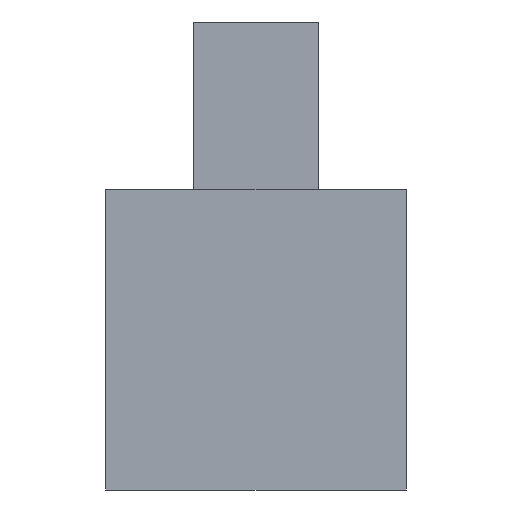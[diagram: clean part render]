
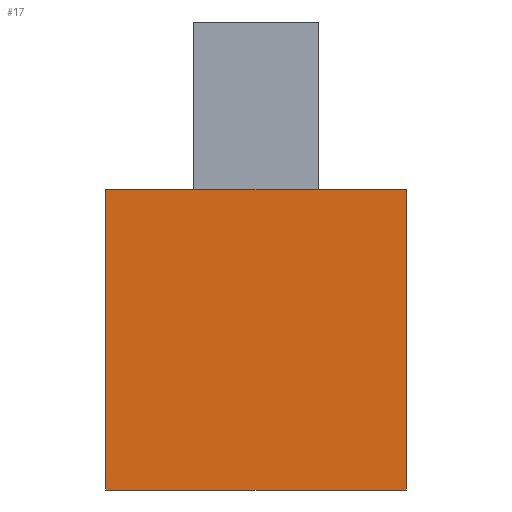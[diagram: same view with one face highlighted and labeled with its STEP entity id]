
A CAD part, left-side view. The second image highlights one B-rep face of the part: STEP entity #17.
In plain terms, the highlighted planar face has unit normal (-1, 0, 0).
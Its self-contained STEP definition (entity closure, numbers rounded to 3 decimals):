
#17 = ADVANCED_FACE('',(#18),#32,.F.);
#18 = FACE_BOUND('',#19,.F.);
#19 = EDGE_LOOP('',(#20,#55,#83,#111));
#20 = ORIENTED_EDGE('',*,*,#21,.F.);
#21 = EDGE_CURVE('',#22,#24,#26,.T.);
#22 = VERTEX_POINT('',#23);
#23 = CARTESIAN_POINT('',(-4.5,-1.8,0.));
#24 = VERTEX_POINT('',#25);
#25 = CARTESIAN_POINT('',(-4.5,-1.8,3.6));
#26 = SURFACE_CURVE('',#27,(#31,#43),.PCURVE_S1.);
#27 = LINE('',#28,#29);
#28 = CARTESIAN_POINT('',(-4.5,-1.8,0.));
#29 = VECTOR('',#30,1.);
#30 = DIRECTION('',(0.,0.,1.));
#31 = PCURVE('',#32,#37);
#32 = PLANE('',#33);
#33 = AXIS2_PLACEMENT_3D('',#34,#35,#36);
#34 = CARTESIAN_POINT('',(-4.5,-1.8,0.));
#35 = DIRECTION('',(1.,0.,-0.));
#36 = DIRECTION('',(0.,0.,1.));
#37 = DEFINITIONAL_REPRESENTATION('',(#38),#42);
#38 = LINE('',#39,#40);
#39 = CARTESIAN_POINT('',(0.,0.));
#40 = VECTOR('',#41,1.);
#41 = DIRECTION('',(1.,0.));
#42 = ( GEOMETRIC_REPRESENTATION_CONTEXT(2) 
PARAMETRIC_REPRESENTATION_CONTEXT() REPRESENTATION_CONTEXT('2D SPACE',''
  ) );
#43 = PCURVE('',#44,#49);
#44 = PLANE('',#45);
#45 = AXIS2_PLACEMENT_3D('',#46,#47,#48);
#46 = CARTESIAN_POINT('',(-4.5,-1.8,0.));
#47 = DIRECTION('',(-0.,1.,0.));
#48 = DIRECTION('',(0.,0.,1.));
#49 = DEFINITIONAL_REPRESENTATION('',(#50),#54);
#50 = LINE('',#51,#52);
#51 = CARTESIAN_POINT('',(0.,0.));
#52 = VECTOR('',#53,1.);
#53 = DIRECTION('',(1.,0.));
#54 = ( GEOMETRIC_REPRESENTATION_CONTEXT(2) 
PARAMETRIC_REPRESENTATION_CONTEXT() REPRESENTATION_CONTEXT('2D SPACE',''
  ) );
#55 = ORIENTED_EDGE('',*,*,#56,.T.);
#56 = EDGE_CURVE('',#22,#57,#59,.T.);
#57 = VERTEX_POINT('',#58);
#58 = CARTESIAN_POINT('',(-4.5,1.8,0.));
#59 = SURFACE_CURVE('',#60,(#64,#71),.PCURVE_S1.);
#60 = LINE('',#61,#62);
#61 = CARTESIAN_POINT('',(-4.5,-1.8,0.));
#62 = VECTOR('',#63,1.);
#63 = DIRECTION('',(-0.,1.,0.));
#64 = PCURVE('',#32,#65);
#65 = DEFINITIONAL_REPRESENTATION('',(#66),#70);
#66 = LINE('',#67,#68);
#67 = CARTESIAN_POINT('',(0.,0.));
#68 = VECTOR('',#69,1.);
#69 = DIRECTION('',(0.,-1.));
#70 = ( GEOMETRIC_REPRESENTATION_CONTEXT(2) 
PARAMETRIC_REPRESENTATION_CONTEXT() REPRESENTATION_CONTEXT('2D SPACE',''
  ) );
#71 = PCURVE('',#72,#77);
#72 = PLANE('',#73);
#73 = AXIS2_PLACEMENT_3D('',#74,#75,#76);
#74 = CARTESIAN_POINT('',(-4.5,-1.8,0.));
#75 = DIRECTION('',(0.,0.,1.));
#76 = DIRECTION('',(1.,0.,-0.));
#77 = DEFINITIONAL_REPRESENTATION('',(#78),#82);
#78 = LINE('',#79,#80);
#79 = CARTESIAN_POINT('',(0.,0.));
#80 = VECTOR('',#81,1.);
#81 = DIRECTION('',(0.,1.));
#82 = ( GEOMETRIC_REPRESENTATION_CONTEXT(2) 
PARAMETRIC_REPRESENTATION_CONTEXT() REPRESENTATION_CONTEXT('2D SPACE',''
  ) );
#83 = ORIENTED_EDGE('',*,*,#84,.T.);
#84 = EDGE_CURVE('',#57,#85,#87,.T.);
#85 = VERTEX_POINT('',#86);
#86 = CARTESIAN_POINT('',(-4.5,1.8,3.6));
#87 = SURFACE_CURVE('',#88,(#92,#99),.PCURVE_S1.);
#88 = LINE('',#89,#90);
#89 = CARTESIAN_POINT('',(-4.5,1.8,0.));
#90 = VECTOR('',#91,1.);
#91 = DIRECTION('',(0.,0.,1.));
#92 = PCURVE('',#32,#93);
#93 = DEFINITIONAL_REPRESENTATION('',(#94),#98);
#94 = LINE('',#95,#96);
#95 = CARTESIAN_POINT('',(0.,-3.6));
#96 = VECTOR('',#97,1.);
#97 = DIRECTION('',(1.,0.));
#98 = ( GEOMETRIC_REPRESENTATION_CONTEXT(2) 
PARAMETRIC_REPRESENTATION_CONTEXT() REPRESENTATION_CONTEXT('2D SPACE',''
  ) );
#99 = PCURVE('',#100,#105);
#100 = PLANE('',#101);
#101 = AXIS2_PLACEMENT_3D('',#102,#103,#104);
#102 = CARTESIAN_POINT('',(-4.5,1.8,0.));
#103 = DIRECTION('',(-0.,1.,0.));
#104 = DIRECTION('',(0.,0.,1.));
#105 = DEFINITIONAL_REPRESENTATION('',(#106),#110);
#106 = LINE('',#107,#108);
#107 = CARTESIAN_POINT('',(0.,0.));
#108 = VECTOR('',#109,1.);
#109 = DIRECTION('',(1.,0.));
#110 = ( GEOMETRIC_REPRESENTATION_CONTEXT(2) 
PARAMETRIC_REPRESENTATION_CONTEXT() REPRESENTATION_CONTEXT('2D SPACE',''
  ) );
#111 = ORIENTED_EDGE('',*,*,#112,.F.);
#112 = EDGE_CURVE('',#24,#85,#113,.T.);
#113 = SURFACE_CURVE('',#114,(#118,#125),.PCURVE_S1.);
#114 = LINE('',#115,#116);
#115 = CARTESIAN_POINT('',(-4.5,-1.8,3.6));
#116 = VECTOR('',#117,1.);
#117 = DIRECTION('',(-0.,1.,0.));
#118 = PCURVE('',#32,#119);
#119 = DEFINITIONAL_REPRESENTATION('',(#120),#124);
#120 = LINE('',#121,#122);
#121 = CARTESIAN_POINT('',(3.6,0.));
#122 = VECTOR('',#123,1.);
#123 = DIRECTION('',(0.,-1.));
#124 = ( GEOMETRIC_REPRESENTATION_CONTEXT(2) 
PARAMETRIC_REPRESENTATION_CONTEXT() REPRESENTATION_CONTEXT('2D SPACE',''
  ) );
#125 = PCURVE('',#126,#131);
#126 = PLANE('',#127);
#127 = AXIS2_PLACEMENT_3D('',#128,#129,#130);
#128 = CARTESIAN_POINT('',(-4.5,-1.8,3.6));
#129 = DIRECTION('',(0.,0.,1.));
#130 = DIRECTION('',(1.,0.,-0.));
#131 = DEFINITIONAL_REPRESENTATION('',(#132),#136);
#132 = LINE('',#133,#134);
#133 = CARTESIAN_POINT('',(0.,0.));
#134 = VECTOR('',#135,1.);
#135 = DIRECTION('',(0.,1.));
#136 = ( GEOMETRIC_REPRESENTATION_CONTEXT(2) 
PARAMETRIC_REPRESENTATION_CONTEXT() REPRESENTATION_CONTEXT('2D SPACE',''
  ) );
